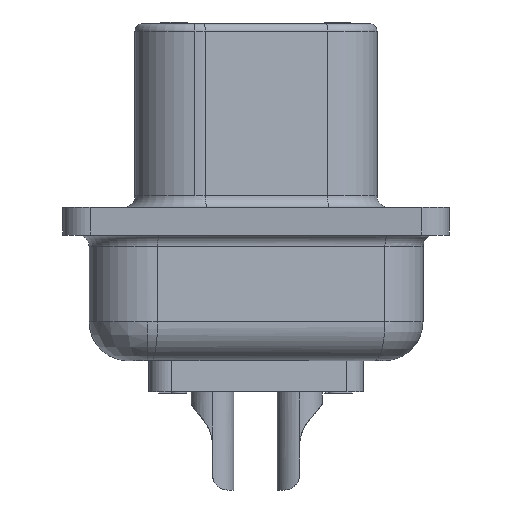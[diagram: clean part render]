
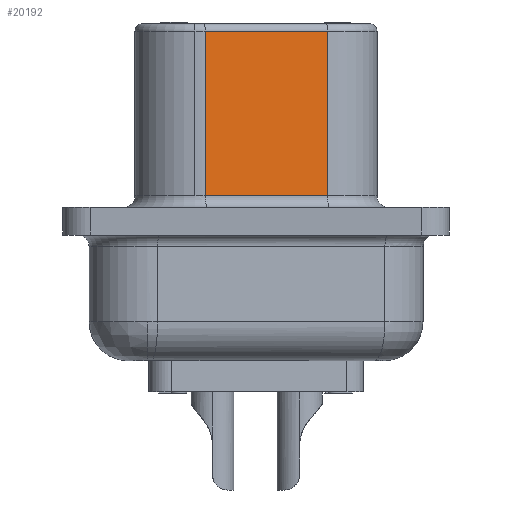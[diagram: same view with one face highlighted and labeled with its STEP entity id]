
A CAD part, left-side view. The second image highlights one B-rep face of the part: STEP entity #20192.
In plain terms, the highlighted planar face has unit normal (-0.985, -0.174, 0).
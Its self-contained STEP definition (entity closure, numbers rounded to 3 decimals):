
#2350 = VERTEX_POINT('',#2351);
#2351 = CARTESIAN_POINT('',(6.94,7.955,5.746));
#2366 = CYLINDRICAL_SURFACE('',#2367,1.956);
#2367 = AXIS2_PLACEMENT_3D('',#2368,#2369,#2370);
#2368 = CARTESIAN_POINT('',(8.866,8.294,6.));
#2369 = DIRECTION('',(-0.,-0.,-1.));
#2370 = DIRECTION('',(-1.,0.,0.));
#2393 = CYLINDRICAL_SURFACE('',#2394,0.254);
#2394 = AXIS2_PLACEMENT_3D('',#2395,#2396,#2397);
#2395 = CARTESIAN_POINT('',(7.893,4.01,5.746));
#2396 = DIRECTION('',(0.174,-0.985,0.));
#2397 = DIRECTION('',(0.985,0.174,0.));
#2554 = VERTEX_POINT('',#2555);
#2555 = CARTESIAN_POINT('',(6.94,7.955,0.381));
#2582 = EDGE_CURVE('',#2350,#2554,#2583,.T.);
#2583 = SURFACE_CURVE('',#2584,(#2588,#2595),.PCURVE_S1.);
#2584 = LINE('',#2585,#2586);
#2585 = CARTESIAN_POINT('',(6.94,7.955,6.));
#2586 = VECTOR('',#2587,1.);
#2587 = DIRECTION('',(-0.,-0.,-1.));
#2588 = PCURVE('',#2366,#2589);
#2589 = DEFINITIONAL_REPRESENTATION('',(#2590),#2594);
#2590 = LINE('',#2591,#2592);
#2591 = CARTESIAN_POINT('',(6.109,0.));
#2592 = VECTOR('',#2593,1.);
#2593 = DIRECTION('',(0.,1.));
#2594 = ( GEOMETRIC_REPRESENTATION_CONTEXT(2) 
PARAMETRIC_REPRESENTATION_CONTEXT() REPRESENTATION_CONTEXT('2D SPACE',''
  ) );
#2595 = PCURVE('',#2596,#2601);
#2596 = PLANE('',#2597);
#2597 = AXIS2_PLACEMENT_3D('',#2598,#2599,#2600);
#2598 = CARTESIAN_POINT('',(7.643,3.966,6.));
#2599 = DIRECTION('',(0.985,0.174,-0.));
#2600 = DIRECTION('',(-0.174,0.985,0.));
#2601 = DEFINITIONAL_REPRESENTATION('',(#2602),#2606);
#2602 = LINE('',#2603,#2604);
#2603 = CARTESIAN_POINT('',(4.05,0.));
#2604 = VECTOR('',#2605,1.);
#2605 = DIRECTION('',(0.,-1.));
#2606 = ( GEOMETRIC_REPRESENTATION_CONTEXT(2) 
PARAMETRIC_REPRESENTATION_CONTEXT() REPRESENTATION_CONTEXT('2D SPACE',''
  ) );
#18692 = CYLINDRICAL_SURFACE('',#18693,0.381);
#18693 = AXIS2_PLACEMENT_3D('',#18694,#18695,#18696);
#18694 = CARTESIAN_POINT('',(7.268,3.9,0.381));
#18695 = DIRECTION('',(0.174,-0.985,0.));
#18696 = DIRECTION('',(0.985,0.174,0.));
#19667 = EDGE_CURVE('',#19668,#19670,#19672,.T.);
#19668 = VERTEX_POINT('',#19669);
#19669 = CARTESIAN_POINT('',(7.643,3.966,5.746));
#19670 = VERTEX_POINT('',#19671);
#19671 = CARTESIAN_POINT('',(7.643,3.966,0.381));
#19672 = SURFACE_CURVE('',#19673,(#19677,#19689),.PCURVE_S1.);
#19673 = LINE('',#19674,#19675);
#19674 = CARTESIAN_POINT('',(7.643,3.966,6.));
#19675 = VECTOR('',#19676,1.);
#19676 = DIRECTION('',(-0.,-0.,-1.));
#19677 = PCURVE('',#19678,#19683);
#19678 = CYLINDRICAL_SURFACE('',#19679,1.956);
#19679 = AXIS2_PLACEMENT_3D('',#19680,#19681,#19682);
#19680 = CARTESIAN_POINT('',(9.569,4.306,6.));
#19681 = DIRECTION('',(-0.,-0.,-1.));
#19682 = DIRECTION('',(-1.,0.,0.));
#19683 = DEFINITIONAL_REPRESENTATION('',(#19684),#19688);
#19684 = LINE('',#19685,#19686);
#19685 = CARTESIAN_POINT('',(6.109,0.));
#19686 = VECTOR('',#19687,1.);
#19687 = DIRECTION('',(0.,1.));
#19688 = ( GEOMETRIC_REPRESENTATION_CONTEXT(2) 
PARAMETRIC_REPRESENTATION_CONTEXT() REPRESENTATION_CONTEXT('2D SPACE',''
  ) );
#19689 = PCURVE('',#2596,#19690);
#19690 = DEFINITIONAL_REPRESENTATION('',(#19691),#19695);
#19691 = LINE('',#19692,#19693);
#19692 = CARTESIAN_POINT('',(0.,0.));
#19693 = VECTOR('',#19694,1.);
#19694 = DIRECTION('',(0.,-1.));
#19695 = ( GEOMETRIC_REPRESENTATION_CONTEXT(2) 
PARAMETRIC_REPRESENTATION_CONTEXT() REPRESENTATION_CONTEXT('2D SPACE',''
  ) );
#20192 = ADVANCED_FACE('',(#20193),#2596,.F.);
#20193 = FACE_BOUND('',#20194,.T.);
#20194 = EDGE_LOOP('',(#20195,#20196,#20217,#20218));
#20195 = ORIENTED_EDGE('',*,*,#2582,.T.);
#20196 = ORIENTED_EDGE('',*,*,#20197,.T.);
#20197 = EDGE_CURVE('',#2554,#19670,#20198,.T.);
#20198 = SURFACE_CURVE('',#20199,(#20203,#20210),.PCURVE_S1.);
#20199 = LINE('',#20200,#20201);
#20200 = CARTESIAN_POINT('',(7.643,3.966,0.381));
#20201 = VECTOR('',#20202,1.);
#20202 = DIRECTION('',(0.174,-0.985,0.));
#20203 = PCURVE('',#2596,#20204);
#20204 = DEFINITIONAL_REPRESENTATION('',(#20205),#20209);
#20205 = LINE('',#20206,#20207);
#20206 = CARTESIAN_POINT('',(0.,-5.619));
#20207 = VECTOR('',#20208,1.);
#20208 = DIRECTION('',(-1.,0.));
#20209 = ( GEOMETRIC_REPRESENTATION_CONTEXT(2) 
PARAMETRIC_REPRESENTATION_CONTEXT() REPRESENTATION_CONTEXT('2D SPACE',''
  ) );
#20210 = PCURVE('',#18692,#20211);
#20211 = DEFINITIONAL_REPRESENTATION('',(#20212),#20216);
#20212 = LINE('',#20213,#20214);
#20213 = CARTESIAN_POINT('',(6.283,0.));
#20214 = VECTOR('',#20215,1.);
#20215 = DIRECTION('',(0.,1.));
#20216 = ( GEOMETRIC_REPRESENTATION_CONTEXT(2) 
PARAMETRIC_REPRESENTATION_CONTEXT() REPRESENTATION_CONTEXT('2D SPACE',''
  ) );
#20217 = ORIENTED_EDGE('',*,*,#19667,.F.);
#20218 = ORIENTED_EDGE('',*,*,#20219,.T.);
#20219 = EDGE_CURVE('',#19668,#2350,#20220,.T.);
#20220 = SURFACE_CURVE('',#20221,(#20225,#20232),.PCURVE_S1.);
#20221 = LINE('',#20222,#20223);
#20222 = CARTESIAN_POINT('',(7.643,3.966,5.746));
#20223 = VECTOR('',#20224,1.);
#20224 = DIRECTION('',(-0.174,0.985,-0.));
#20225 = PCURVE('',#2596,#20226);
#20226 = DEFINITIONAL_REPRESENTATION('',(#20227),#20231);
#20227 = LINE('',#20228,#20229);
#20228 = CARTESIAN_POINT('',(0.,-0.254));
#20229 = VECTOR('',#20230,1.);
#20230 = DIRECTION('',(1.,0.));
#20231 = ( GEOMETRIC_REPRESENTATION_CONTEXT(2) 
PARAMETRIC_REPRESENTATION_CONTEXT() REPRESENTATION_CONTEXT('2D SPACE',''
  ) );
#20232 = PCURVE('',#2393,#20233);
#20233 = DEFINITIONAL_REPRESENTATION('',(#20234),#20238);
#20234 = LINE('',#20235,#20236);
#20235 = CARTESIAN_POINT('',(3.142,0.));
#20236 = VECTOR('',#20237,1.);
#20237 = DIRECTION('',(0.,-1.));
#20238 = ( GEOMETRIC_REPRESENTATION_CONTEXT(2) 
PARAMETRIC_REPRESENTATION_CONTEXT() REPRESENTATION_CONTEXT('2D SPACE',''
  ) );
